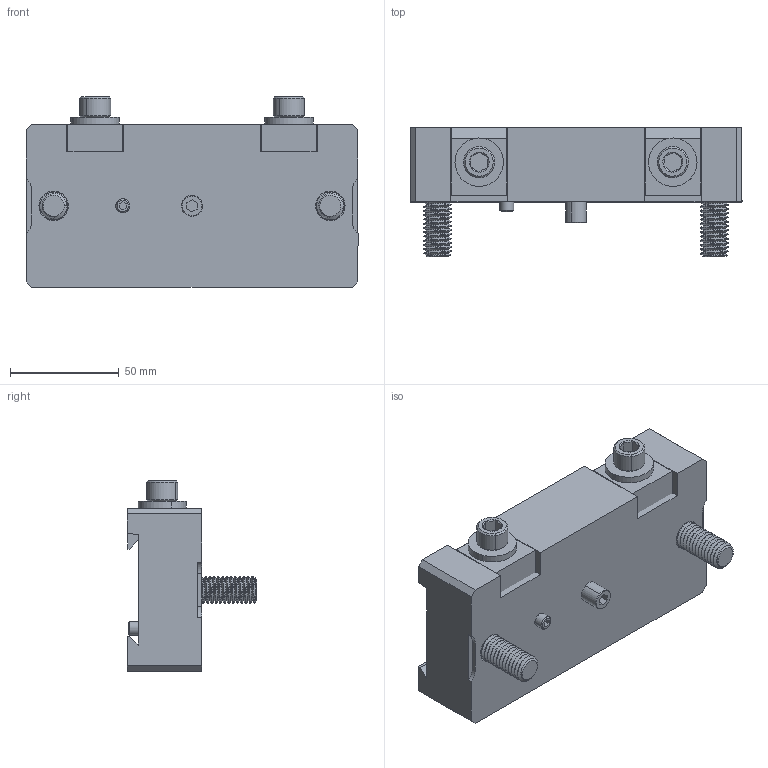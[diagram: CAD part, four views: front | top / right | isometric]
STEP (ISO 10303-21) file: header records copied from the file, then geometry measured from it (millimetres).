
FILE_DESCRIPTION (( 'STEP AP214' ), '1' );
FILE_NAME ('D362.STEP', '2019-05-07T15:52:51', ( '' ), ( '' ), 'SwSTEP 2.0', 'SolidWorks 2018', '' );
FILE_SCHEMA (( 'AUTOMOTIVE_DESIGN' ));
Length unit declared in the file: inch
Products named in the file (11): 72228_DEFAULT; HW.03819_HW.03819; LP375_NO THREADS; LP250_NO THREADS ; HW.0375.FW_98029A031; 72170_DEFAULT; HW.LC045G02M_HW.LC045G02M; SLD375_SLD375; CDM375; D362-1 REV G; D362
Assembly tree (18 placements, depth 2):
  D362
    D362-1 REV G
    CDM375  x2
    SLD375_SLD375  x2
    HW.LC045G02M_HW.LC045G02M  x2
    72170_DEFAULT  x2
    HW.0375.FW_98029A031  x2
    LP250_NO THREADS   x2
    LP375_NO THREADS
    HW.03819_HW.03819  x2
    72228_DEFAULT  x2
Bounding box: 152.4 x 59.56 x 87.63 mm (x, y, z)
Volume: 347165.1 mm3; surface area: 84225.7 mm2
Topology: 18 solids, 18 shells, 733 faces, 1880 edges, 1214 vertices
Faces by surface type: cylinder 435, plane 164, cone 99, bspline 29, torus 6
Entity records: 23452 total; most frequent: CARTESIAN_POINT 13139, ORIENTED_EDGE 2198, DIRECTION 1793, EDGE_CURVE 1099, VERTEX_POINT 713, AXIS2_PLACEMENT_3D 665, EDGE_LOOP 474, VECTOR 463
